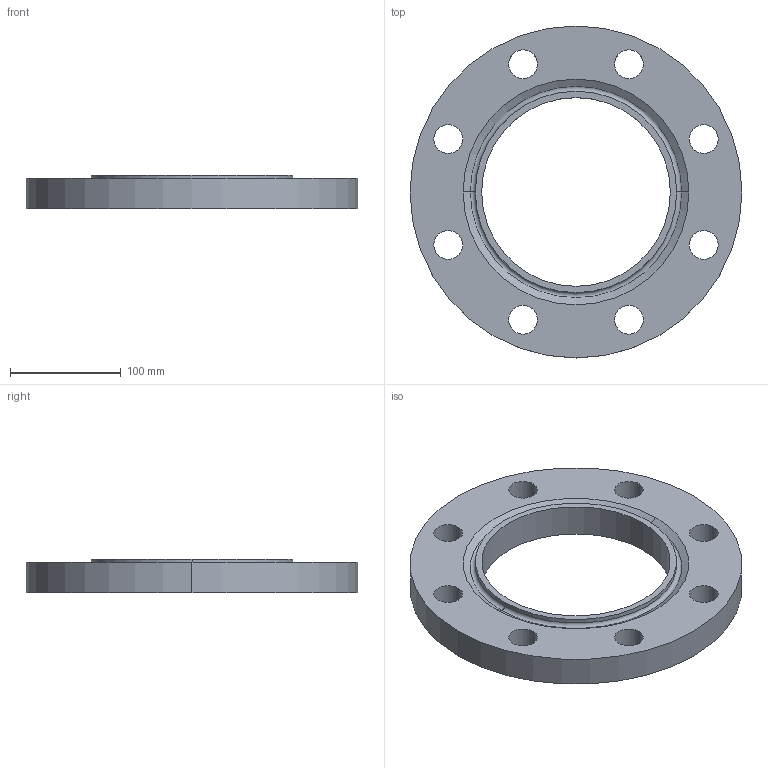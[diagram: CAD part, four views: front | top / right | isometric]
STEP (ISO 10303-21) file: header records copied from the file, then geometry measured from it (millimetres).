
FILE_DESCRIPTION (( 'STEP AP214' ), '1' );
FILE_NAME ('PN40 DN150 Type 01 - Type H Face.STEP', '2019-01-05T00:25:07', ( '' ), ( '' ), 'SwSTEP 2.0', 'SolidWorks 2019', '' );
FILE_SCHEMA (( 'AUTOMOTIVE_DESIGN' ));
Length unit declared in the file: millimetre
Products named in the file (1): PN40 DN150 Type 01 - Type H Face
Bounding box: 300 x 300 x 30 mm (x, y, z)
Volume: 1188329.2 mm3; surface area: 151217.8 mm2
Topology: 1 solids, 1 shells, 29 faces, 74 edges, 48 vertices
Faces by surface type: cylinder 22, plane 3, torus 2, cone 2
Entity records: 976 total; most frequent: DIRECTION 184, CARTESIAN_POINT 152, ORIENTED_EDGE 148, AXIS2_PLACEMENT_3D 80, EDGE_CURVE 74, CIRCLE 50, VERTEX_POINT 48, EDGE_LOOP 48
